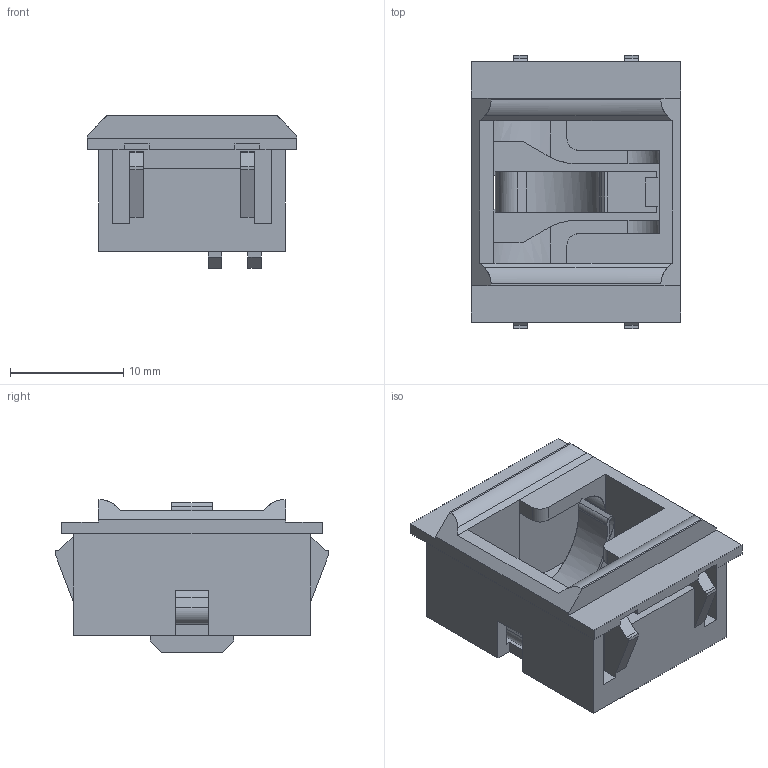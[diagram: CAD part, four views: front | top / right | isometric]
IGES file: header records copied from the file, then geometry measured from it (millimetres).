
Global section: file name: C:\coretechnologie2013\3D-in/01VYS01Y04.igs; native system: CT CoreTechnologie 3D Evolution; preprocessor: 2006; author: assmuth; date: 1140630.071626; units: millimetre
Bounding box: 18.5 x 24.2 x 13.5 mm (x, y, z)
Surface area: 3316.9 mm2 (no closed solid volume)
Topology: 0 solids, 0 shells, 280 faces, 1576 edges, 1576 vertices
Faces by surface type: bspline 280
